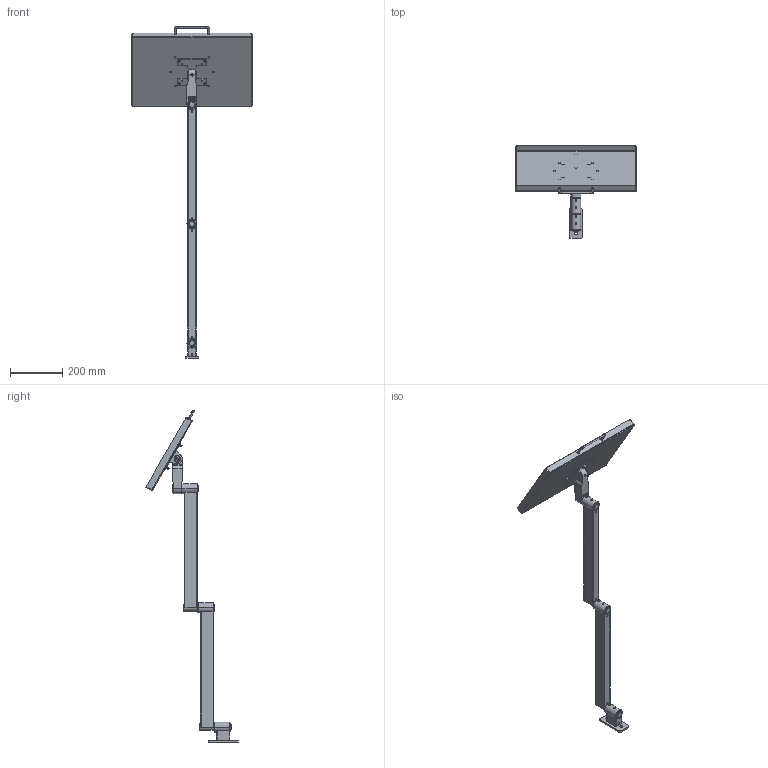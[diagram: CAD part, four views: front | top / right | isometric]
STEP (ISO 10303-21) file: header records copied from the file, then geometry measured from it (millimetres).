
FILE_DESCRIPTION (( 'STEP AP203' ), '1' );
FILE_NAME ('70-0701-00 REV AA, 36in RIGID SYSTEM, TILTING TRAY, WALL MOUNT - ANGLE.STEP', '2025-07-21T23:53:10', ( '' ), ( '' ), 'SwSTEP 2.0', 'SolidWorks 2025', '' );
FILE_SCHEMA (( 'CONFIG_CONTROL_DESIGN' ));
Length unit declared in the file: inch
Products named in the file (29): 025-067-00, HANDLE, U SHAPED, 8-32; 006-008-00, NUT, HEX, 10-32 x .125_006-008-00; 71-1018-RX REV AA, HOUSING, 18in RIGID; 002-090-00, FHSCS 10-32 x .625L_002-090-00; 41-0063-RX REV AA, PIN, TILT, VESA; 016-007-00, OILITE PLUS BEARING, 0.876 id x 1.002 od x 0.75 lg; 016-012-00, OILITE PLUS BEARING, .876 IDx1.0 OD x 1.0; 002-100-00, BHSCS, 8-32x.375_002-100-00; 71-1061-RX REV AA, BODY, VESA, RAW_MACHINE; 007-034-00, SHSS, .375-24, .25L_007-034-00; 70-0018-00 REV AA, MICRO HD WALL MOUNT; 71-0090-RX REV AA, HOUSING, MOUNT; 010-012-00, RETAINING RING, EXTERNAL, .875in SHAFT; 70-0701-00 REV AA, 36in RIGID SYSTEM, TILTING TRAY, WALL MOUNT - ANGLE; 70-1018-00 REV AA, 18in RIGID SECTION; 11-0450-00 REV AA, FOAM, YELLOW, 18x12; 007-036-00, SHSS, 1''4-28, .25L_007-036-00; 70-0402-00 REV AA, 18x12 TILTING TOOL TRAY ASSEMBLY; 71-0218-RX REV AA, PLATE, MICRO HD, 4.5 x 2.0 x .25_Laser; 11-0028-RX REV AA, PLASTIC DISC, VESA; 70-0048-RX REV AA, CONNECTOR PIN, 875OD x 3.9; 11-0401-00 REV AA, 18x12 TOOL TRAY, BLACK; 016-008-00, OILITE PLUS BEARING, 0.876 id x 1.002 od x 1.25 lg; 71-2113-RX REV AA, HOUSING, BEARING, TALL, 1.5OD_MACHINE; 70-0060-00 REV AA, VESA ATTACHMENT; 11-0062-BLKX REV AA, BRACKET, VESA, SHEETMETAL, BLACK; 70-0048-00 REV AA, CONNECTOR PIN ASSEMBLY, .875OD x 3.9; 002-088-00, FHSCS 10-32 x .5L, BO_002-088-00; 71-0022-RX REV AA, PIN, RIGID SECTION
Assembly tree (48 placements, depth 4):
  70-0701-00 REV AA, 36in RIGID SYSTEM, TILTING TRAY, WALL MOUNT - ANGLE
    70-0018-00 REV AA, MICRO HD WALL MOUNT
      71-0218-RX REV AA, PLATE, MICRO HD, 4.5 x 2.0 x .25_Laser
      71-0090-RX REV AA, HOUSING, MOUNT
      71-2113-RX REV AA, HOUSING, BEARING, TALL, 1.5OD_MACHINE
      016-007-00, OILITE PLUS BEARING, 0.876 id x 1.002 od x 0.75 lg
      016-008-00, OILITE PLUS BEARING, 0.876 id x 1.002 od x 1.25 lg
      007-036-00, SHSS, 1''4-28, .25L_007-036-00
    70-1018-00 REV AA, 18in RIGID SECTION  x2
      71-1018-RX REV AA, HOUSING, 18in RIGID
      71-0022-RX REV AA, PIN, RIGID SECTION
      71-2113-RX REV AA, HOUSING, BEARING, TALL, 1.5OD_MACHINE
      016-007-00, OILITE PLUS BEARING, 0.876 id x 1.002 od x 0.75 lg
      016-008-00, OILITE PLUS BEARING, 0.876 id x 1.002 od x 1.25 lg
      010-012-00, RETAINING RING, EXTERNAL, .875in SHAFT
      007-036-00, SHSS, 1''4-28, .25L_007-036-00
    70-0048-00 REV AA, CONNECTOR PIN ASSEMBLY, .875OD x 3.9
      70-0048-RX REV AA, CONNECTOR PIN, 875OD x 3.9
      010-012-00, RETAINING RING, EXTERNAL, .875in SHAFT  x2
    70-0402-00 REV AA, 18x12 TILTING TOOL TRAY ASSEMBLY
      70-0060-00 REV AA, VESA ATTACHMENT
        71-1061-RX REV AA, BODY, VESA, RAW_MACHINE
        016-008-00, OILITE PLUS BEARING, 0.876 id x 1.002 od x 1.25 lg
        016-012-00, OILITE PLUS BEARING, .876 IDx1.0 OD x 1.0
        007-034-00, SHSS, .375-24, .25L_007-034-00
        41-0063-RX REV AA, PIN, TILT, VESA
        11-0028-RX REV AA, PLASTIC DISC, VESA  x2
        11-0062-BLKX REV AA, BRACKET, VESA, SHEETMETAL, BLACK
        002-088-00, FHSCS 10-32 x .5L, BO_002-088-00  x4
        007-036-00, SHSS, 1''4-28, .25L_007-036-00
      11-0401-00 REV AA, 18x12 TOOL TRAY, BLACK
      025-067-00, HANDLE, U SHAPED, 8-32
      11-0450-00 REV AA, FOAM, YELLOW, 18x12
      002-100-00, BHSCS, 8-32x.375_002-100-00  x2
      002-090-00, FHSCS 10-32 x .625L_002-090-00  x4
      006-008-00, NUT, HEX, 10-32 x .125_006-008-00  x4
Bounding box: 461.77 x 354.28 x 1273.13 mm (x, y, z)
Volume: 1674487.1 mm3; surface area: 1117852.7 mm2
Topology: 49 solids, 49 shells, 1870 faces, 4603 edges, 2831 vertices
Faces by surface type: cylinder 929, cone 412, plane 364, torus 112, bspline 49, sphere 4
Entity records: 35917 total; most frequent: CARTESIAN_POINT 14008, ORIENTED_EDGE 3868, DIRECTION 3831, EDGE_CURVE 1934, AXIS2_PLACEMENT_3D 1514, VERTEX_POINT 1198, EDGE_LOOP 906, LINE 803
